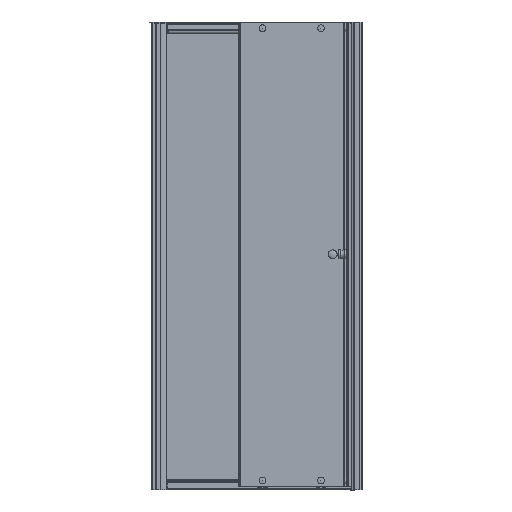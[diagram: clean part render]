
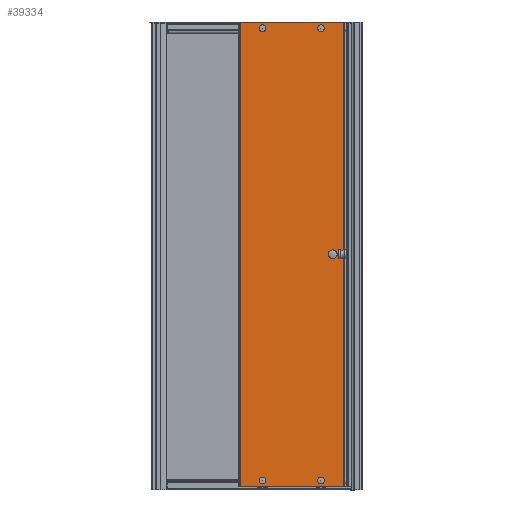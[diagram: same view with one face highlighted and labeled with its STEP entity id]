
A CAD part, left-side view. The second image highlights one B-rep face of the part: STEP entity #39334.
In plain terms, the highlighted planar face has unit normal (-1, 0, 0).
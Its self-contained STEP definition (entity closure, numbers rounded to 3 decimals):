
#3665=LINE($,#71848,#6762);
#3692=LINE($,#71924,#6789);
#3727=LINE($,#72021,#6824);
#3728=LINE($,#72022,#6825);
#6762=VECTOR($,#51959,1985.);
#6789=VECTOR($,#52034,1985.);
#6824=VECTOR($,#52129,445.3);
#6825=VECTOR($,#52130,445.3);
#7799=FACE_BOUND($,#12620,.T.);
#7800=FACE_BOUND($,#12621,.T.);
#7801=FACE_BOUND($,#12622,.T.);
#7802=FACE_BOUND($,#12623,.T.);
#7803=FACE_BOUND($,#12624,.T.);
#12620=EDGE_LOOP($,(#32482));
#12621=EDGE_LOOP($,(#32483));
#12622=EDGE_LOOP($,(#32484));
#12623=EDGE_LOOP($,(#32485));
#12624=EDGE_LOOP($,(#32486,#32487,#32488,#32489));
#13130=CIRCLE($,#39942,9.5);
#13210=CIRCLE($,#40101,9.5);
#13391=CIRCLE($,#40469,9.5);
#13476=CIRCLE($,#40641,9.5);
#14858=VERTEX_POINT($,#54581);
#14962=VERTEX_POINT($,#55270);
#15221=VERTEX_POINT($,#57068);
#15359=VERTEX_POINT($,#57918);
#17461=VERTEX_POINT($,#71845);
#17462=VERTEX_POINT($,#71847);
#17486=VERTEX_POINT($,#71922);
#17487=VERTEX_POINT($,#71923);
#18409=EDGE_CURVE($,#14858,#14858,#13130,.T.);
#18574=EDGE_CURVE($,#14962,#14962,#13210,.T.);
#18971=EDGE_CURVE($,#15221,#15221,#13391,.T.);
#19180=EDGE_CURVE($,#15359,#15359,#13476,.T.);
#22521=EDGE_CURVE($,#17462,#17461,#3665,.T.);
#22559=EDGE_CURVE($,#17486,#17487,#3692,.T.);
#22608=EDGE_CURVE($,#17487,#17462,#3727,.T.);
#22609=EDGE_CURVE($,#17486,#17461,#3728,.T.);
#32482=ORIENTED_EDGE($,*,*,#18409,.T.);
#32483=ORIENTED_EDGE($,*,*,#18574,.T.);
#32484=ORIENTED_EDGE($,*,*,#18971,.T.);
#32485=ORIENTED_EDGE($,*,*,#19180,.T.);
#32486=ORIENTED_EDGE($,*,*,#22559,.T.);
#32487=ORIENTED_EDGE($,*,*,#22608,.T.);
#32488=ORIENTED_EDGE($,*,*,#22521,.T.);
#32489=ORIENTED_EDGE($,*,*,#22609,.F.);
#35191=PLANE($,#42829);
#39334=ADVANCED_FACE($,(#7799,#7800,#7801,#7802,#7803),#35191,.T.);
#39942=AXIS2_PLACEMENT_3D($,#54582,#43927,#43928);
#40101=AXIS2_PLACEMENT_3D($,#55271,#44303,#44304);
#40469=AXIS2_PLACEMENT_3D($,#57069,#45188,#45189);
#40641=AXIS2_PLACEMENT_3D($,#57919,#45626,#45627);
#42829=AXIS2_PLACEMENT_3D($,#72020,#52127,#52128);
#43927=DIRECTION('center_axis',(1.,0.,
0.));
#43928=DIRECTION('ref_axis',(0.,-1.,0.));
#44303=DIRECTION('center_axis',(1.,0.,
0.));
#44304=DIRECTION('ref_axis',(0.,-1.,0.));
#45188=DIRECTION('center_axis',(1.,0.,
0.));
#45189=DIRECTION('ref_axis',(0.,1.,0.));
#45626=DIRECTION('center_axis',(1.,0.,
0.));
#45627=DIRECTION('ref_axis',(0.,1.,0.));
#51959=DIRECTION($,(0.,0.,1.));
#52034=DIRECTION($,(0.,0.,-1.));
#52127=DIRECTION('center_axis',(-1.,0.,
0.));
#52128=DIRECTION('ref_axis',(0.,-1.,0.));
#52129=DIRECTION($,(0.,-1.,0.));
#52130=DIRECTION($,(0.,-1.,0.));
#54581=CARTESIAN_POINT('',(719.136,-9.081,1985.6));
#54582=CARTESIAN_POINT('Origin',(719.136,-18.581,1985.6));
#55270=CARTESIAN_POINT('',(719.136,240.919,1985.6));
#55271=CARTESIAN_POINT('Origin',(719.136,231.419,1985.6));
#57068=CARTESIAN_POINT('',(719.138,-28.081,50.6));
#57069=CARTESIAN_POINT('Origin',(719.138,-18.581,50.6));
#57918=CARTESIAN_POINT('',(719.138,221.919,50.6));
#57919=CARTESIAN_POINT('Origin',(719.138,231.419,50.6));
#71845=CARTESIAN_POINT('',(719.136,-118.581,2010.6));
#71847=CARTESIAN_POINT('',(719.138,-118.581,25.6));
#71848=CARTESIAN_POINT($,(719.138,-118.581,25.6));
#71922=CARTESIAN_POINT('',(719.136,326.719,2010.6));
#71923=CARTESIAN_POINT('',(719.138,326.719,25.6));
#71924=CARTESIAN_POINT($,(719.138,326.719,25.6));
#72020=CARTESIAN_POINT('Origin',(719.138,331.419,25.6));
#72021=CARTESIAN_POINT($,(719.138,331.419,25.6));
#72022=CARTESIAN_POINT($,(719.136,331.419,2010.6));
